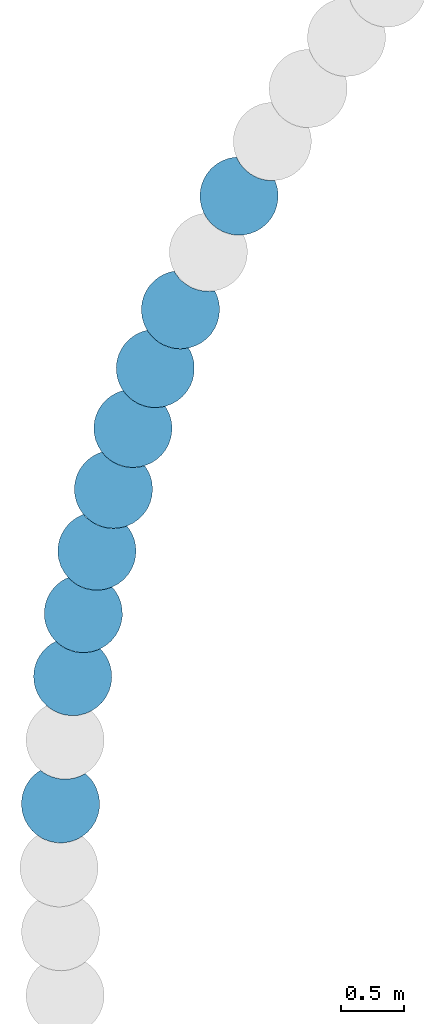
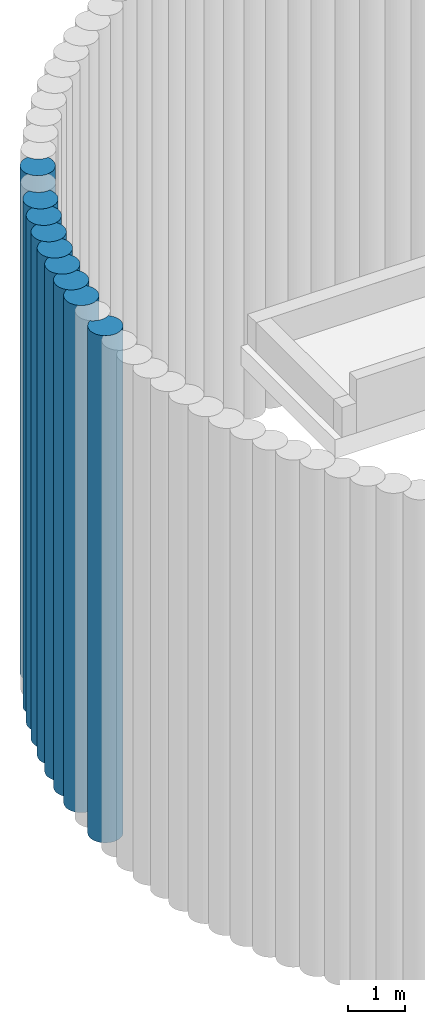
# One storey, part 6 of 16: 9 slabs.
"""IFC2X3 building model written with IfcOpenShell, lengths in centimetres."""

from ifc_helpers import new_model, entity, si_unit, converted_unit, derived_unit, direction, frame, frame_2d, origin, place, context, subcontext, project, spatial, polyline, circle_curve, parameter, trimmed, segment, composite_curve, outline, extrude, material, element, save


model = new_model("IFC2X3")

# Units and contexts
model_context = context("Model", 3, precision=0.001, world=origin(), true_north=direction((6.12303176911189e-17, 1.0)))
body_context = subcontext(model_context, "Body", "Model", "MODEL_VIEW")
ifc_project = project(units=[si_unit("LENGTHUNIT", "METRE", prefix="CENTI"), si_unit("AREAUNIT", "SQUARE_METRE"), si_unit("VOLUMEUNIT", "CUBIC_METRE"), converted_unit("PLANEANGLEUNIT", "DEGREE", entity("IfcRatioMeasure", 0.0174532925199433), si_unit("PLANEANGLEUNIT", "RADIAN"), dimensions=[0, 0, 0, 0, 0, 0, 0]), si_unit("MASSUNIT", "GRAM", prefix="KILO"), derived_unit("MASSDENSITYUNIT", [(si_unit("MASSUNIT", "GRAM", prefix="KILO"), 1), (si_unit("LENGTHUNIT", "METRE"), -3)]), si_unit("TIMEUNIT", "SECOND"), si_unit("FREQUENCYUNIT", "HERTZ"), si_unit("THERMODYNAMICTEMPERATUREUNIT", "DEGREE_CELSIUS"), derived_unit("THERMALTRANSMITTANCEUNIT", [(si_unit("MASSUNIT", "GRAM", prefix="KILO"), 1), (si_unit("THERMODYNAMICTEMPERATUREUNIT", "KELVIN"), -1), (si_unit("TIMEUNIT", "SECOND"), -3)]), derived_unit("VOLUMETRICFLOWRATEUNIT", [(si_unit("LENGTHUNIT", "METRE"), 3), (si_unit("TIMEUNIT", "SECOND"), -1)]), si_unit("ELECTRICCURRENTUNIT", "AMPERE"), si_unit("ELECTRICVOLTAGEUNIT", "VOLT"), si_unit("POWERUNIT", "WATT"), si_unit("FORCEUNIT", "NEWTON", prefix="KILO"), si_unit("ILLUMINANCEUNIT", "LUX"), si_unit("LUMINOUSFLUXUNIT", "LUMEN"), si_unit("LUMINOUSINTENSITYUNIT", "CANDELA"), derived_unit("USERDEFINED", [(si_unit("MASSUNIT", "GRAM", prefix="KILO"), -1), (si_unit("LENGTHUNIT", "METRE"), -2), (si_unit("TIMEUNIT", "SECOND"), 3), (si_unit("LUMINOUSFLUXUNIT", "LUMEN"), 1)]), derived_unit("LINEARVELOCITYUNIT", [(si_unit("LENGTHUNIT", "METRE"), 1), (si_unit("TIMEUNIT", "SECOND"), -1)]), si_unit("PRESSUREUNIT", "PASCAL"), derived_unit("USERDEFINED", [(si_unit("LENGTHUNIT", "METRE"), -2), (si_unit("MASSUNIT", "GRAM", prefix="KILO"), 1), (si_unit("TIMEUNIT", "SECOND"), -2)])], contexts=[model_context])

# Site, building, storey
site_placement = place(None, origin())
site = spatial("IfcSite", under=ifc_project, at=site_placement, Name="Default", CompositionType="ELEMENT")
building_placement = place(site_placement, origin())
building = spatial("IfcBuilding", under=site, at=building_placement, CompositionType="ELEMENT")
storey_placement = place(building_placement, frame((0.0, 0.0, -984.0)))
storey = spatial("IfcBuildingStorey", under=building, at=storey_placement, Name="Niveau Fond de fosse", CompositionType="ELEMENT", Elevation=-984.000000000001)

# Slabs
ifc_material = material(Name="Maçonnerie - Béton coulé sur place")
slab_1_placement = place(storey_placement, origin())
element("IfcSlab", 1, at=slab_1_placement, inside=storey, material=ifc_material, Name="Pieu béton - JBTP:600mm 2", ObjectType="Pieu béton - JBTP:600mm 2", PredefinedType="BASESLAB", context=body_context, shape_type="SweptSolid", body=[
    extrude(outline(composite_curve([segment(trimmed(circle_curve(frame_2d((1.18354648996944, -14.7318661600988), x_axis=(1.0, 0.0)), 30.9999999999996), [parameter(180.0)], [parameter(207.444291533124)], True, "PARAMETER"), True, "CONTINUOUS"), segment(trimmed(circle_curve(frame_2d((-22.2236636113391, -59.7464676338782), x_axis=(0.998867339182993, -0.0475819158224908)), 30.9999999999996), [parameter(30.1715642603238)], [parameter(100.334884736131)], True, "PARAMETER"), False, "CONTINUOUS"), segment(trimmed(circle_curve(frame_2d((1.18354648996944, -14.7318661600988), x_axis=(1.0, 0.0)), 30.9999999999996), [parameter(277.607612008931)], [parameter(4.07110999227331e-13)], True, "PARAMETER"), True, "CONTINUOUS"), segment(polyline([(32.183546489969, -14.7318661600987), (31.7068413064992, -9.31628922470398)]), True, "CONTINUOUS"), segment(polyline([(31.7068413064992, -9.31628922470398), (30.2921459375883, -4.06934121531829)]), True, "CONTINUOUS"), segment(polyline([(30.2921459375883, -4.06934121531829), (27.9815446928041, 0.850722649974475)]), True, "CONTINUOUS"), segment(polyline([(27.9815446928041, 0.850722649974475), (24.8625540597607, 5.27574740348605)]), True, "CONTINUOUS"), segment(polyline([(24.8625540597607, 5.27574740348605), (21.0196407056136, 9.09100869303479)]), True, "CONTINUOUS"), segment(polyline([(21.0196407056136, 9.09100869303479), (16.5713553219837, 12.1793831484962)]), True, "CONTINUOUS"), segment(polyline([(16.5713553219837, 12.1793831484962), (11.6531207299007, 14.4466878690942)]), True, "CONTINUOUS"), segment(polyline([(11.6531207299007, 14.4466878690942), (6.41465294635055, 15.8235838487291)]), True, "CONTINUOUS"), segment(polyline([(6.41465294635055, 15.8235838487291), (1.01547753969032, 16.2676782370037)]), True, "CONTINUOUS"), segment(polyline([(1.01547753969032, 16.2676782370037), (-4.38028118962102, 15.7646561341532)]), True, "CONTINUOUS"), segment(polyline([(-4.38028118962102, 15.7646561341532), (-9.56967916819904, 14.3433490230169)]), True, "CONTINUOUS"), segment(polyline([(-9.56967916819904, 14.3433490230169), (-14.435362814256, 12.0459170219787)]), True, "CONTINUOUS"), segment(polyline([(-14.435362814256, 12.0459170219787), (-18.8300295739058, 8.94210209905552)]), True, "CONTINUOUS"), segment(polyline([(-18.8300295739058, 8.94210209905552), (-22.6217091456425, 5.12536940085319)]), True, "CONTINUOUS"), segment(polyline([(-22.6217091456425, 5.12536940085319), (-25.6964633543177, 0.71044813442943)]), True, "CONTINUOUS"), segment(polyline([(-25.6964633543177, 0.71044813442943), (-27.9617477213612, -4.17005640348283)]), True, "CONTINUOUS"), segment(polyline([(-27.9617477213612, -4.17005640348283), (-29.3490361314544, -9.36890070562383)]), True, "CONTINUOUS"), segment(polyline([(-29.3490361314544, -9.36890070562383), (-29.81645351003, -14.7318661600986)]), True, "CONTINUOUS")], self_intersect=False)), frame((-923.001581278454, 518.221782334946, -300.0), z_axis=(0.0, 0.0, 1.0), x_axis=(-0.997696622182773, 0.0678339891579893, 0.0)), (0.0, 0.0, 1.0), 1084.0),
])
slab_2_placement = place(storey_placement, origin())
element("IfcSlab", 2, at=slab_2_placement, inside=storey, material=ifc_material, Name="Pieu béton - JBTP:600mm 2", ObjectType="Pieu béton - JBTP:600mm 2", PredefinedType="BASESLAB", context=body_context, shape_type="SweptSolid", body=[
    extrude(outline(composite_curve([segment(trimmed(circle_curve(frame_2d((1.18354648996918, -14.731866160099), x_axis=(1.0, 0.0)), 30.9999999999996), [parameter(180.0)], [parameter(207.444291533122)], True, "PARAMETER"), True, "CONTINUOUS"), segment(trimmed(circle_curve(frame_2d((-22.2236636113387, -59.7464676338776), x_axis=(0.998867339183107, -0.0475819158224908)), 30.9999999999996), [parameter(30.1715642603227)], [parameter(100.334884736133)], True, "PARAMETER"), False, "CONTINUOUS"), segment(trimmed(circle_curve(frame_2d((1.18354648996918, -14.731866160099), x_axis=(1.0, 0.0)), 30.9999999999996), [parameter(277.607612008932)], [parameter(4.07110999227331e-13)], True, "PARAMETER"), True, "CONTINUOUS"), segment(polyline([(32.1835464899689, -14.731866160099), (31.7068413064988, -9.31628922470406)]), True, "CONTINUOUS"), segment(polyline([(31.7068413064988, -9.31628922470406), (30.2921459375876, -4.0693412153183)]), True, "CONTINUOUS"), segment(polyline([(30.2921459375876, -4.0693412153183), (27.9815446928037, 0.850722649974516)]), True, "CONTINUOUS"), segment(polyline([(27.9815446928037, 0.850722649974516), (24.8625540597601, 5.27574740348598)]), True, "CONTINUOUS"), segment(polyline([(24.8625540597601, 5.27574740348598), (21.0196407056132, 9.09100869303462)]), True, "CONTINUOUS"), segment(polyline([(21.0196407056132, 9.09100869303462), (16.5713553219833, 12.1793831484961)]), True, "CONTINUOUS"), segment(polyline([(16.5713553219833, 12.1793831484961), (11.6531207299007, 14.446687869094)]), True, "CONTINUOUS"), segment(polyline([(11.6531207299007, 14.446687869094), (6.41465294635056, 15.8235838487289)]), True, "CONTINUOUS"), segment(polyline([(6.41465294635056, 15.8235838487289), (1.01547753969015, 16.2676782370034)]), True, "CONTINUOUS"), segment(polyline([(1.01547753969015, 16.2676782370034), (-4.38028118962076, 15.7646561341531)]), True, "CONTINUOUS"), segment(polyline([(-4.38028118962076, 15.7646561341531), (-9.56967916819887, 14.3433490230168)]), True, "CONTINUOUS"), segment(polyline([(-9.56967916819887, 14.3433490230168), (-14.4353628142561, 12.0459170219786)]), True, "CONTINUOUS"), segment(polyline([(-14.4353628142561, 12.0459170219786), (-18.8300295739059, 8.94210209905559)]), True, "CONTINUOUS"), segment(polyline([(-18.8300295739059, 8.94210209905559), (-22.6217091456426, 5.12536940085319)]), True, "CONTINUOUS"), segment(polyline([(-22.6217091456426, 5.12536940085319), (-25.696463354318, 0.710448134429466)]), True, "CONTINUOUS"), segment(polyline([(-25.696463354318, 0.710448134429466), (-27.9617477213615, -4.170056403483)]), True, "CONTINUOUS"), segment(polyline([(-27.9617477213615, -4.170056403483), (-29.3490361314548, -9.36890070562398)]), True, "CONTINUOUS"), segment(polyline([(-29.3490361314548, -9.36890070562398), (-29.8164535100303, -14.7318661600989)]), True, "CONTINUOUS")], self_intersect=False)), frame((-968.08227083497, 428.138355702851, -300.0), z_axis=(0.0, 0.0, 1.0), x_axis=(-0.999627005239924, -0.0273102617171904, 0.0)), (0.0, 0.0, 1.0), 1084.0),
])
slab_3_placement = place(storey_placement, origin())
element("IfcSlab", 3, at=slab_3_placement, inside=storey, material=ifc_material, Name="Pieu béton - JBTP:600mm 2", ObjectType="Pieu béton - JBTP:600mm 2", PredefinedType="BASESLAB", context=body_context, shape_type="SweptSolid", body=[
    extrude(outline(composite_curve([segment(trimmed(circle_curve(frame_2d((1.18354648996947, -14.731866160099), x_axis=(1.0, 0.0)), 30.9999999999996), [parameter(180.0)], [parameter(207.444291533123)], True, "PARAMETER"), True, "CONTINUOUS"), segment(trimmed(circle_curve(frame_2d((-22.2236636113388, -59.7464676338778), x_axis=(0.998867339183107, -0.0475819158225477)), 30.9999999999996), [parameter(30.1715642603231)], [parameter(100.334884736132)], True, "PARAMETER"), False, "CONTINUOUS"), segment(trimmed(circle_curve(frame_2d((1.18354648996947, -14.731866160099), x_axis=(1.0, 0.0)), 30.9999999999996), [parameter(277.607612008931)], [parameter(4.07110999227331e-13)], True, "PARAMETER"), True, "CONTINUOUS"), segment(polyline([(32.183546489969, -14.731866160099), (31.7068413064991, -9.31628922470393)]), True, "CONTINUOUS"), segment(polyline([(31.7068413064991, -9.31628922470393), (30.292145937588, -4.06934121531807)]), True, "CONTINUOUS"), segment(polyline([(30.292145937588, -4.06934121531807), (27.9815446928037, 0.850722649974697)]), True, "CONTINUOUS"), segment(polyline([(27.9815446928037, 0.850722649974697), (24.8625540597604, 5.27574740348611)]), True, "CONTINUOUS"), segment(polyline([(24.8625540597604, 5.27574740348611), (21.019640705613, 9.09100869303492)]), True, "CONTINUOUS"), segment(polyline([(21.019640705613, 9.09100869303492), (16.5713553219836, 12.1793831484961)]), True, "CONTINUOUS"), segment(polyline([(16.5713553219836, 12.1793831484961), (11.6531207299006, 14.4466878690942)]), True, "CONTINUOUS"), segment(polyline([(11.6531207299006, 14.4466878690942), (6.41465294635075, 15.8235838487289)]), True, "CONTINUOUS"), segment(polyline([(6.41465294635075, 15.8235838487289), (1.01547753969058, 16.2676782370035)]), True, "CONTINUOUS"), segment(polyline([(1.01547753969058, 16.2676782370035), (-4.3802811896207, 15.7646561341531)]), True, "CONTINUOUS"), segment(polyline([(-4.3802811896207, 15.7646561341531), (-9.56967916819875, 14.3433490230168)]), True, "CONTINUOUS"), segment(polyline([(-9.56967916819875, 14.3433490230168), (-14.4353628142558, 12.0459170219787)]), True, "CONTINUOUS"), segment(polyline([(-14.4353628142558, 12.0459170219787), (-18.8300295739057, 8.94210209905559)]), True, "CONTINUOUS"), segment(polyline([(-18.8300295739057, 8.94210209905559), (-22.6217091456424, 5.12536940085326)]), True, "CONTINUOUS"), segment(polyline([(-22.6217091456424, 5.12536940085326), (-25.6964633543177, 0.710448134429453)]), True, "CONTINUOUS"), segment(polyline([(-25.6964633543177, 0.710448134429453), (-27.9617477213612, -4.17005640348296)]), True, "CONTINUOUS"), segment(polyline([(-27.9617477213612, -4.17005640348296), (-29.3490361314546, -9.36890070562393)]), True, "CONTINUOUS"), segment(polyline([(-29.3490361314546, -9.36890070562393), (-29.8164535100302, -14.7318661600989)]), True, "CONTINUOUS")], self_intersect=False)), frame((-987.357405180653, 381.590211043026, -300.0), z_axis=(0.0, 0.0, 1.0), x_axis=(-0.997195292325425, -0.0748434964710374, 0.0)), (0.0, 0.0, 1.0), 1084.0),
])
slab_4_placement = place(storey_placement, origin())
element("IfcSlab", 4, at=slab_4_placement, inside=storey, material=ifc_material, Name="Pieu béton - JBTP:600mm 2", ObjectType="Pieu béton - JBTP:600mm 2", PredefinedType="BASESLAB", context=body_context, shape_type="SweptSolid", body=[
    extrude(outline(composite_curve([segment(trimmed(circle_curve(frame_2d((1.18354648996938, -14.7318661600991), x_axis=(1.0, 0.0)), 30.9999999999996), [parameter(180.0)], [parameter(207.444291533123)], True, "PARAMETER"), True, "CONTINUOUS"), segment(trimmed(circle_curve(frame_2d((-22.2236636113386, -59.7464676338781), x_axis=(0.998867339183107, -0.0475819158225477)), 30.9999999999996), [parameter(30.1715642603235)], [parameter(100.334884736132)], True, "PARAMETER"), False, "CONTINUOUS"), segment(trimmed(circle_curve(frame_2d((1.18354648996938, -14.7318661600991), x_axis=(1.0, 0.0)), 30.9999999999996), [parameter(277.607612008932)], [parameter(4.07110999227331e-13)], True, "PARAMETER"), True, "CONTINUOUS"), segment(polyline([(32.1835464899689, -14.7318661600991), (31.7068413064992, -9.3162892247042)]), True, "CONTINUOUS"), segment(polyline([(31.7068413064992, -9.3162892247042), (30.2921459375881, -4.06934121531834)]), True, "CONTINUOUS"), segment(polyline([(30.2921459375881, -4.06934121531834), (27.9815446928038, 0.850722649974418)]), True, "CONTINUOUS"), segment(polyline([(27.9815446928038, 0.850722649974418), (24.8625540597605, 5.2757474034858)]), True, "CONTINUOUS"), segment(polyline([(24.8625540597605, 5.2757474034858), (21.0196407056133, 9.09100869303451)]), True, "CONTINUOUS"), segment(polyline([(21.0196407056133, 9.09100869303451), (16.5713553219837, 12.179383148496)]), True, "CONTINUOUS"), segment(polyline([(16.5713553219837, 12.179383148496), (11.653120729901, 14.4466878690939)]), True, "CONTINUOUS"), segment(polyline([(11.653120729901, 14.4466878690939), (6.41465294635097, 15.8235838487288)]), True, "CONTINUOUS"), segment(polyline([(6.41465294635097, 15.8235838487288), (1.01547753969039, 16.2676782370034)]), True, "CONTINUOUS"), segment(polyline([(1.01547753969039, 16.2676782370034), (-4.38028118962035, 15.764656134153)]), True, "CONTINUOUS"), segment(polyline([(-4.38028118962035, 15.764656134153), (-9.56967916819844, 14.3433490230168)]), True, "CONTINUOUS"), segment(polyline([(-9.56967916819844, 14.3433490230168), (-14.4353628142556, 12.0459170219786)]), True, "CONTINUOUS"), segment(polyline([(-14.4353628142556, 12.0459170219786), (-18.8300295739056, 8.94210209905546)]), True, "CONTINUOUS"), segment(polyline([(-18.8300295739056, 8.94210209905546), (-22.6217091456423, 5.12536940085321)]), True, "CONTINUOUS"), segment(polyline([(-22.6217091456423, 5.12536940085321), (-25.6964633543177, 0.710448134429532)]), True, "CONTINUOUS"), segment(polyline([(-25.6964633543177, 0.710448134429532), (-27.9617477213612, -4.17005640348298)]), True, "CONTINUOUS"), segment(polyline([(-27.9617477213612, -4.17005640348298), (-29.3490361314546, -9.36890070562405)]), True, "CONTINUOUS"), segment(polyline([(-29.3490361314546, -9.36890070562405), (-29.8164535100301, -14.7318661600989)]), True, "CONTINUOUS")], self_intersect=False)), frame((-1004.39585743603, 334.177641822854, -300.0), z_axis=(0.0, 0.0, 1.0), x_axis=(-0.992504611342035, -0.122207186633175, 0.0)), (0.0, 0.0, 1.0), 1084.0),
])
slab_5_placement = place(storey_placement, origin())
element("IfcSlab", 5, at=slab_5_placement, inside=storey, material=ifc_material, Name="Pieu béton - JBTP:600mm 2", ObjectType="Pieu béton - JBTP:600mm 2", PredefinedType="BASESLAB", context=body_context, shape_type="SweptSolid", body=[
    extrude(outline(composite_curve([segment(trimmed(circle_curve(frame_2d((1.18354648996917, -14.7318661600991), x_axis=(1.0, 0.0)), 30.9999999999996), [parameter(180.0)], [parameter(207.444291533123)], True, "PARAMETER"), True, "CONTINUOUS"), segment(trimmed(circle_curve(frame_2d((-22.2236636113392, -59.7464676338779), x_axis=(0.998867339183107, -0.047581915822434)), 30.9999999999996), [parameter(30.171564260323)], [parameter(100.334884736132)], True, "PARAMETER"), False, "CONTINUOUS"), segment(trimmed(circle_curve(frame_2d((1.18354648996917, -14.7318661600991), x_axis=(1.0, 0.0)), 30.9999999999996), [parameter(277.607612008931)], [parameter(4.07110999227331e-13)], True, "PARAMETER"), True, "CONTINUOUS"), segment(polyline([(32.1835464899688, -14.7318661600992), (31.706841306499, -9.31628922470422)]), True, "CONTINUOUS"), segment(polyline([(31.706841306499, -9.31628922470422), (30.2921459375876, -4.06934121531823)]), True, "CONTINUOUS"), segment(polyline([(30.2921459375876, -4.06934121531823), (27.9815446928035, 0.850722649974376)]), True, "CONTINUOUS"), segment(polyline([(27.9815446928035, 0.850722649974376), (24.8625540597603, 5.27574740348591)]), True, "CONTINUOUS"), segment(polyline([(24.8625540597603, 5.27574740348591), (21.0196407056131, 9.09100869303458)]), True, "CONTINUOUS"), segment(polyline([(21.0196407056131, 9.09100869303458), (16.5713553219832, 12.1793831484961)]), True, "CONTINUOUS"), segment(polyline([(16.5713553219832, 12.1793831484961), (11.6531207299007, 14.4466878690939)]), True, "CONTINUOUS"), segment(polyline([(11.6531207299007, 14.4466878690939), (6.41465294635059, 15.8235838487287)]), True, "CONTINUOUS"), segment(polyline([(6.41465294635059, 15.8235838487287), (1.01547753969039, 16.2676782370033)]), True, "CONTINUOUS"), segment(polyline([(1.01547753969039, 16.2676782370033), (-4.3802811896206, 15.764656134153)]), True, "CONTINUOUS"), segment(polyline([(-4.3802811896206, 15.764656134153), (-9.56967916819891, 14.3433490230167)]), True, "CONTINUOUS"), segment(polyline([(-9.56967916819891, 14.3433490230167), (-14.435362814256, 12.0459170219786)]), True, "CONTINUOUS"), segment(polyline([(-14.435362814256, 12.0459170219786), (-18.8300295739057, 8.9421020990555)]), True, "CONTINUOUS"), segment(polyline([(-18.8300295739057, 8.9421020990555), (-22.6217091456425, 5.12536940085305)]), True, "CONTINUOUS"), segment(polyline([(-22.6217091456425, 5.12536940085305), (-25.696463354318, 0.710448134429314)]), True, "CONTINUOUS"), segment(polyline([(-25.696463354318, 0.710448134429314), (-27.9617477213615, -4.17005640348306)]), True, "CONTINUOUS"), segment(polyline([(-27.9617477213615, -4.17005640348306), (-29.3490361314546, -9.36890070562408)]), True, "CONTINUOUS"), segment(polyline([(-29.3490361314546, -9.36890070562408), (-29.8164535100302, -14.7318661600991)]), True, "CONTINUOUS")], self_intersect=False)), frame((-1019.15903002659, 286.008052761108, -300.0), z_axis=(0.0, 0.0, 1.0), x_axis=(-0.985565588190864, -0.169294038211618, 0.0)), (0.0, 0.0, 1.0), 1084.0),
])
slab_6_placement = place(storey_placement, origin())
element("IfcSlab", 6, at=slab_6_placement, inside=storey, material=ifc_material, Name="Pieu béton - JBTP:600mm 2", ObjectType="Pieu béton - JBTP:600mm 2", PredefinedType="BASESLAB", context=body_context, shape_type="SweptSolid", body=[
    extrude(outline(composite_curve([segment(trimmed(circle_curve(frame_2d((1.18354648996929, -14.7318661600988), x_axis=(1.0, 0.0)), 30.9999999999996), [parameter(180.0)], [parameter(207.444291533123)], True, "PARAMETER"), True, "CONTINUOUS"), segment(trimmed(circle_curve(frame_2d((-22.2236636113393, -59.7464676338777), x_axis=(0.998867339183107, -0.0475819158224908)), 30.9999999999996), [parameter(30.1715642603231)], [parameter(100.334884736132)], True, "PARAMETER"), False, "CONTINUOUS"), segment(trimmed(circle_curve(frame_2d((1.18354648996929, -14.7318661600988), x_axis=(1.0, 0.0)), 30.9999999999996), [parameter(277.607612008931)], [parameter(4.07110999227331e-13)], True, "PARAMETER"), True, "CONTINUOUS"), segment(polyline([(32.1835464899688, -14.7318661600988), (31.706841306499, -9.31628922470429)]), True, "CONTINUOUS"), segment(polyline([(31.706841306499, -9.31628922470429), (30.2921459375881, -4.06934121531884)]), True, "CONTINUOUS"), segment(polyline([(30.2921459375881, -4.06934121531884), (27.9815446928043, 0.850722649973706)]), True, "CONTINUOUS"), segment(polyline([(27.9815446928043, 0.850722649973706), (24.8625540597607, 5.27574740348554)]), True, "CONTINUOUS"), segment(polyline([(24.8625540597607, 5.27574740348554), (21.0196407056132, 9.09100869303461)]), True, "CONTINUOUS"), segment(polyline([(21.0196407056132, 9.09100869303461), (16.5713553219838, 12.1793831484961)]), True, "CONTINUOUS"), segment(polyline([(16.5713553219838, 12.1793831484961), (11.6531207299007, 14.4466878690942)]), True, "CONTINUOUS"), segment(polyline([(11.6531207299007, 14.4466878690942), (6.41465294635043, 15.8235838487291)]), True, "CONTINUOUS"), segment(polyline([(6.41465294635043, 15.8235838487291), (1.01547753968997, 16.2676782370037)]), True, "CONTINUOUS"), segment(polyline([(1.01547753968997, 16.2676782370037), (-4.38028118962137, 15.7646561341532)]), True, "CONTINUOUS"), segment(polyline([(-4.38028118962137, 15.7646561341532), (-9.56967916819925, 14.3433490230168)]), True, "CONTINUOUS"), segment(polyline([(-9.56967916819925, 14.3433490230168), (-14.4353628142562, 12.0459170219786)]), True, "CONTINUOUS"), segment(polyline([(-14.4353628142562, 12.0459170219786), (-18.8300295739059, 8.94210209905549)]), True, "CONTINUOUS"), segment(polyline([(-18.8300295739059, 8.94210209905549), (-22.6217091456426, 5.12536940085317)]), True, "CONTINUOUS"), segment(polyline([(-22.6217091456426, 5.12536940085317), (-25.6964633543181, 0.710448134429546)]), True, "CONTINUOUS"), segment(polyline([(-25.6964633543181, 0.710448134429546), (-27.9617477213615, -4.17005640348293)]), True, "CONTINUOUS"), segment(polyline([(-27.9617477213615, -4.17005640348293), (-29.3490361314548, -9.36890070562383)]), True, "CONTINUOUS"), segment(polyline([(-29.3490361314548, -9.36890070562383), (-29.8164535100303, -14.7318661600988)]), True, "CONTINUOUS")], self_intersect=False)), frame((-1031.61347961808, 237.190563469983, -300.0), z_axis=(0.0, 0.0, 1.0), x_axis=(-0.976393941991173, -0.215997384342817, 0.0)), (0.0, 0.0, 1.0), 1084.0),
])
slab_7_placement = place(storey_placement, origin())
element("IfcSlab", 7, at=slab_7_placement, inside=storey, material=ifc_material, Name="Pieu béton - JBTP:600mm 2", ObjectType="Pieu béton - JBTP:600mm 2", PredefinedType="BASESLAB", context=body_context, shape_type="SweptSolid", body=[
    extrude(outline(composite_curve([segment(trimmed(circle_curve(frame_2d((1.18354648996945, -14.7318661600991), x_axis=(1.0, 0.0)), 30.9999999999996), [parameter(180.0)], [parameter(207.444291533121)], True, "PARAMETER"), True, "CONTINUOUS"), segment(trimmed(circle_curve(frame_2d((-22.2236636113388, -59.7464676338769), x_axis=(0.998867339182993, -0.047581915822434)), 30.9999999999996), [parameter(30.1715642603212)], [parameter(100.334884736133)], True, "PARAMETER"), False, "CONTINUOUS"), segment(trimmed(circle_curve(frame_2d((1.18354648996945, -14.7318661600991), x_axis=(1.0, 0.0)), 30.9999999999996), [parameter(277.607612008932)], [parameter(4.07110999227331e-13)], True, "PARAMETER"), True, "CONTINUOUS"), segment(polyline([(32.1835464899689, -14.7318661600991), (31.7068413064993, -9.31628922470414)]), True, "CONTINUOUS"), segment(polyline([(31.7068413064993, -9.31628922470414), (30.2921459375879, -4.06934121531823)]), True, "CONTINUOUS"), segment(polyline([(30.2921459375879, -4.06934121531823), (27.9815446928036, 0.850722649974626)]), True, "CONTINUOUS"), segment(polyline([(27.9815446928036, 0.850722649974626), (24.8625540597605, 5.27574740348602)]), True, "CONTINUOUS"), segment(polyline([(24.8625540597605, 5.27574740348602), (21.0196407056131, 9.09100869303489)]), True, "CONTINUOUS"), segment(polyline([(21.0196407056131, 9.09100869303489), (16.5713553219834, 12.1793831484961)]), True, "CONTINUOUS"), segment(polyline([(16.5713553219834, 12.1793831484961), (11.6531207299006, 14.4466878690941)]), True, "CONTINUOUS"), segment(polyline([(11.6531207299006, 14.4466878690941), (6.41465294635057, 15.8235838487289)]), True, "CONTINUOUS"), segment(polyline([(6.41465294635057, 15.8235838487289), (1.01547753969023, 16.2676782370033)]), True, "CONTINUOUS"), segment(polyline([(1.01547753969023, 16.2676782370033), (-4.38028118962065, 15.764656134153)]), True, "CONTINUOUS"), segment(polyline([(-4.38028118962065, 15.764656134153), (-9.56967916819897, 14.3433490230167)]), True, "CONTINUOUS"), segment(polyline([(-9.56967916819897, 14.3433490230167), (-14.4353628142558, 12.0459170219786)]), True, "CONTINUOUS"), segment(polyline([(-14.4353628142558, 12.0459170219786), (-18.8300295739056, 8.94210209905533)]), True, "CONTINUOUS"), segment(polyline([(-18.8300295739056, 8.94210209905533), (-22.6217091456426, 5.12536940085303)]), True, "CONTINUOUS"), segment(polyline([(-22.6217091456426, 5.12536940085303), (-25.6964633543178, 0.71044813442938)]), True, "CONTINUOUS"), segment(polyline([(-25.6964633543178, 0.71044813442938), (-27.9617477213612, -4.17005640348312)]), True, "CONTINUOUS"), segment(polyline([(-27.9617477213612, -4.17005640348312), (-29.3490361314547, -9.36890070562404)]), True, "CONTINUOUS"), segment(polyline([(-29.3490361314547, -9.36890070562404), (-29.8164535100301, -14.731866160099)]), True, "CONTINUOUS")], self_intersect=False)), frame((-1041.73099287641, 187.835761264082, -300.0), z_axis=(0.0, 0.0, 1.0), x_axis=(-0.965010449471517, -0.262211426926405, 0.0)), (0.0, 0.0, 1.0), 1084.0),
])
slab_8_placement = place(storey_placement, origin())
element("IfcSlab", 8, at=slab_8_placement, inside=storey, material=ifc_material, Name="Pieu béton - JBTP:600mm 2", ObjectType="Pieu béton - JBTP:600mm 2", PredefinedType="BASESLAB", context=body_context, shape_type="SweptSolid", body=[
    extrude(outline(composite_curve([segment(trimmed(circle_curve(frame_2d((1.18354648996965, -14.7318661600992), x_axis=(1.0, 0.0)), 30.9999999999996), [parameter(180.0)], [parameter(207.444291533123)], True, "PARAMETER"), True, "CONTINUOUS"), segment(trimmed(circle_curve(frame_2d((-22.2236636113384, -59.7464676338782), x_axis=(0.998867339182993, -0.0475819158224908)), 30.9999999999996), [parameter(30.1715642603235)], [parameter(100.334884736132)], True, "PARAMETER"), False, "CONTINUOUS"), segment(trimmed(circle_curve(frame_2d((1.18354648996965, -14.7318661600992), x_axis=(1.0, 0.0)), 30.9999999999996), [parameter(277.607612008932)], [parameter(4.07110999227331e-13)], True, "PARAMETER"), True, "CONTINUOUS"), segment(polyline([(32.1835464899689, -14.7318661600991), (31.7068413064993, -9.31628922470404)]), True, "CONTINUOUS"), segment(polyline([(31.7068413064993, -9.31628922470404), (30.2921459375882, -4.06934121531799)]), True, "CONTINUOUS"), segment(polyline([(30.2921459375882, -4.06934121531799), (27.9815446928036, 0.850722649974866)]), True, "CONTINUOUS"), segment(polyline([(27.9815446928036, 0.850722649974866), (24.8625540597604, 5.27574740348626)]), True, "CONTINUOUS"), segment(polyline([(24.8625540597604, 5.27574740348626), (21.0196407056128, 9.09100869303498)]), True, "CONTINUOUS"), segment(polyline([(21.0196407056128, 9.09100869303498), (16.5713553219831, 12.1793831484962)]), True, "CONTINUOUS"), segment(polyline([(16.5713553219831, 12.1793831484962), (11.6531207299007, 14.446687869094)]), True, "CONTINUOUS"), segment(polyline([(11.6531207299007, 14.446687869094), (6.4146529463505, 15.8235838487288)]), True, "CONTINUOUS"), segment(polyline([(6.4146529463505, 15.8235838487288), (1.0154775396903, 16.2676782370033)]), True, "CONTINUOUS"), segment(polyline([(1.0154775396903, 16.2676782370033), (-4.38028118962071, 15.7646561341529)]), True, "CONTINUOUS"), segment(polyline([(-4.38028118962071, 15.7646561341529), (-9.56967916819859, 14.3433490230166)]), True, "CONTINUOUS"), segment(polyline([(-9.56967916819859, 14.3433490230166), (-14.4353628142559, 12.0459170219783)]), True, "CONTINUOUS"), segment(polyline([(-14.4353628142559, 12.0459170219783), (-18.8300295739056, 8.94210209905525)]), True, "CONTINUOUS"), segment(polyline([(-18.8300295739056, 8.94210209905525), (-22.6217091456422, 5.12536940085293)]), True, "CONTINUOUS"), segment(polyline([(-22.6217091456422, 5.12536940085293), (-25.6964633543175, 0.71044813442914)]), True, "CONTINUOUS"), segment(polyline([(-25.6964633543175, 0.71044813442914), (-27.9617477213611, -4.17005640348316)]), True, "CONTINUOUS"), segment(polyline([(-27.9617477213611, -4.17005640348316), (-29.3490361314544, -9.36890070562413)]), True, "CONTINUOUS"), segment(polyline([(-29.3490361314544, -9.36890070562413), (-29.81645351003, -14.7318661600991)]), True, "CONTINUOUS")], self_intersect=False)), frame((-1049.48865037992, 138.055450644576, -300.0), z_axis=(0.0, 0.0, 1.0), x_axis=(-0.951440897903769, -0.307831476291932, 0.0)), (0.0, 0.0, 1.0), 1084.0),
])
slab_9_placement = place(storey_placement, origin())
element("IfcSlab", 9, at=slab_9_placement, inside=storey, material=ifc_material, Name="Pieu béton - JBTP:600mm 2", ObjectType="Pieu béton - JBTP:600mm 2", PredefinedType="BASESLAB", context=body_context, shape_type="SweptSolid", body=[
    extrude(outline(composite_curve([segment(trimmed(circle_curve(frame_2d((1.18354648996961, -14.7318661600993), x_axis=(1.0, 0.0)), 30.9999999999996), [parameter(180.0)], [parameter(207.44429153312)], True, "PARAMETER"), True, "CONTINUOUS"), segment(trimmed(circle_curve(frame_2d((-22.2236636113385, -59.7464676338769), x_axis=(0.998867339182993, -0.047581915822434)), 30.9999999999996), [parameter(30.1715642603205)], [parameter(100.334884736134)], True, "PARAMETER"), False, "CONTINUOUS"), segment(trimmed(circle_curve(frame_2d((1.18354648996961, -14.7318661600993), x_axis=(1.0, 0.0)), 30.9999999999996), [parameter(277.607612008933)], [parameter(4.07110999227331e-13)], True, "PARAMETER"), True, "CONTINUOUS"), segment(polyline([(32.1835464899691, -14.7318661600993), (31.7068413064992, -9.31628922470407)]), True, "CONTINUOUS"), segment(polyline([(31.7068413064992, -9.31628922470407), (30.2921459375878, -4.06934121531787)]), True, "CONTINUOUS"), segment(polyline([(30.2921459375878, -4.06934121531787), (27.9815446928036, 0.850722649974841)]), True, "CONTINUOUS"), segment(polyline([(27.9815446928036, 0.850722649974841), (24.8625540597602, 5.27574740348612)]), True, "CONTINUOUS"), segment(polyline([(24.8625540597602, 5.27574740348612), (21.0196407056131, 9.09100869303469)]), True, "CONTINUOUS"), segment(polyline([(21.0196407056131, 9.09100869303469), (16.5713553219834, 12.1793831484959)]), True, "CONTINUOUS"), segment(polyline([(16.5713553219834, 12.1793831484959), (11.6531207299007, 14.4466878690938)]), True, "CONTINUOUS"), segment(polyline([(11.6531207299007, 14.4466878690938), (6.41465294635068, 15.8235838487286)]), True, "CONTINUOUS"), segment(polyline([(6.41465294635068, 15.8235838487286), (1.01547753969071, 16.2676782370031)]), True, "CONTINUOUS"), segment(polyline([(1.01547753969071, 16.2676782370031), (-4.3802811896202, 15.7646561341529)]), True, "CONTINUOUS"), segment(polyline([(-4.3802811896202, 15.7646561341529), (-9.56967916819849, 14.3433490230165)]), True, "CONTINUOUS"), segment(polyline([(-9.56967916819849, 14.3433490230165), (-14.4353628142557, 12.0459170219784)]), True, "CONTINUOUS"), segment(polyline([(-14.4353628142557, 12.0459170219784), (-18.8300295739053, 8.94210209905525)]), True, "CONTINUOUS"), segment(polyline([(-18.8300295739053, 8.94210209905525), (-22.6217091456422, 5.12536940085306)]), True, "CONTINUOUS"), segment(polyline([(-22.6217091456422, 5.12536940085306), (-25.6964633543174, 0.710448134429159)]), True, "CONTINUOUS"), segment(polyline([(-25.6964633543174, 0.710448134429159), (-27.961747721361, -4.17005640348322)]), True, "CONTINUOUS"), segment(polyline([(-27.961747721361, -4.17005640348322), (-29.3490361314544, -9.36890070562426)]), True, "CONTINUOUS"), segment(polyline([(-29.3490361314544, -9.36890070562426), (-29.81645351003, -14.7318661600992)]), True, "CONTINUOUS")], self_intersect=False)), frame((-1057.85948940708, 37.6700862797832, -300.0), z_axis=(0.0, 0.0, 1.0), x_axis=(-0.917871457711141, -0.396877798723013, 0.0)), (0.0, 0.0, 1.0), 1084.0),
])

save(model, "model.ifc")
